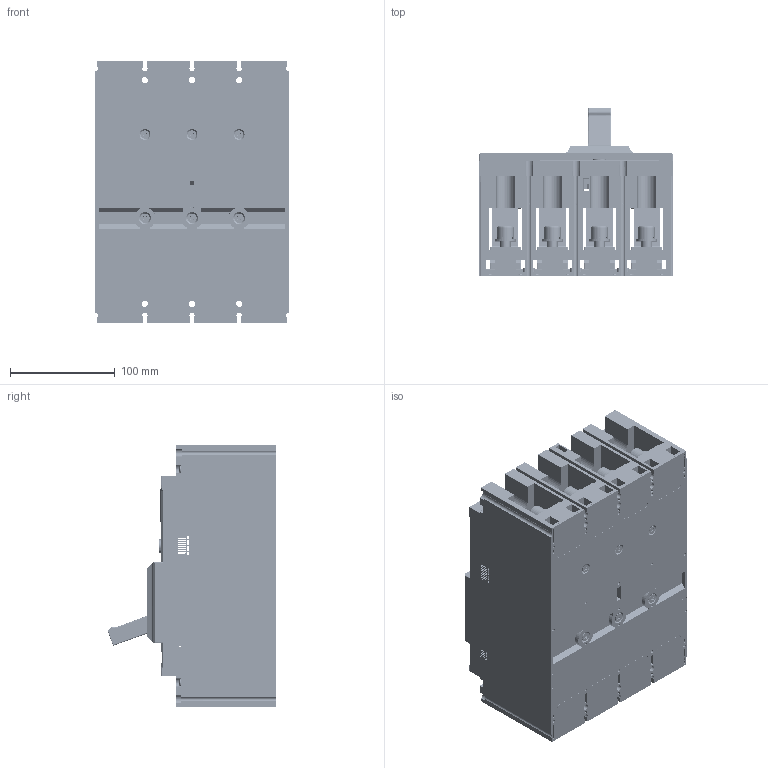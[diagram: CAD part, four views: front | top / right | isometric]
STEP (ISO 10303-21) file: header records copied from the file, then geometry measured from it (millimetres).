
FILE_DESCRIPTION (( 'STEP AP214' ), '1' );
FILE_NAME ('MNX400_630L_M_H_4P ﾈﾇﾌ.STEP', '2024-12-04T11:05:15', ( '' ), ( '' ), 'SwSTEP 2.0', 'SolidWorks 2022', '' );
FILE_SCHEMA (( 'AUTOMOTIVE_DESIGN' ));
Length unit declared in the file: millimetre
Products named in the file (1): MNX400_630L_M_H_4P ИЗМ
Bounding box: 185 x 161.33 x 250 mm (x, y, z)
Volume: 1010642.5 mm3; surface area: 774499.1 mm2
Topology: 66 solids, 448 shells, 12334 faces, 32557 edges, 21229 vertices
Faces by surface type: plane 7921, cylinder 3503, cone 440, bspline 226, torus 172, sphere 72
Entity records: 411307 total; most frequent: CARTESIAN_POINT 101100, ORIENTED_EDGE 64946, DIRECTION 63435, EDGE_CURVE 32473, LINE 23701, VECTOR 23701, VERTEX_POINT 21229, AXIS2_PLACEMENT_3D 19867
